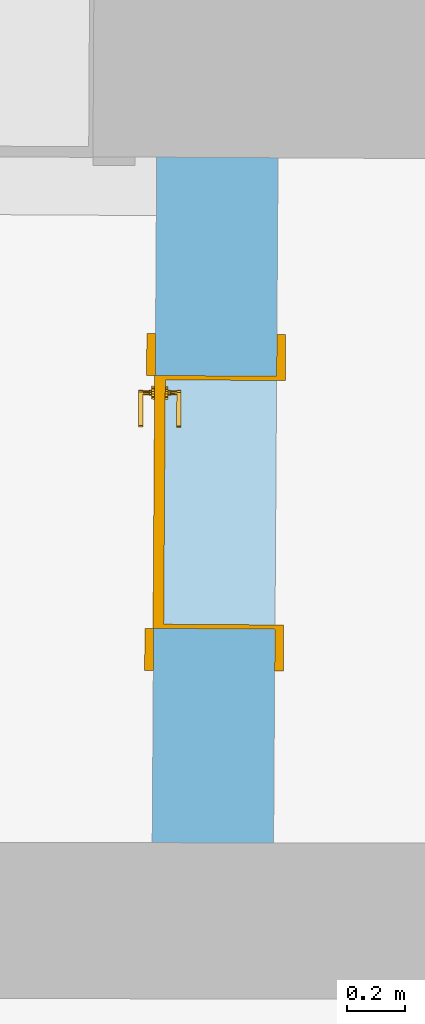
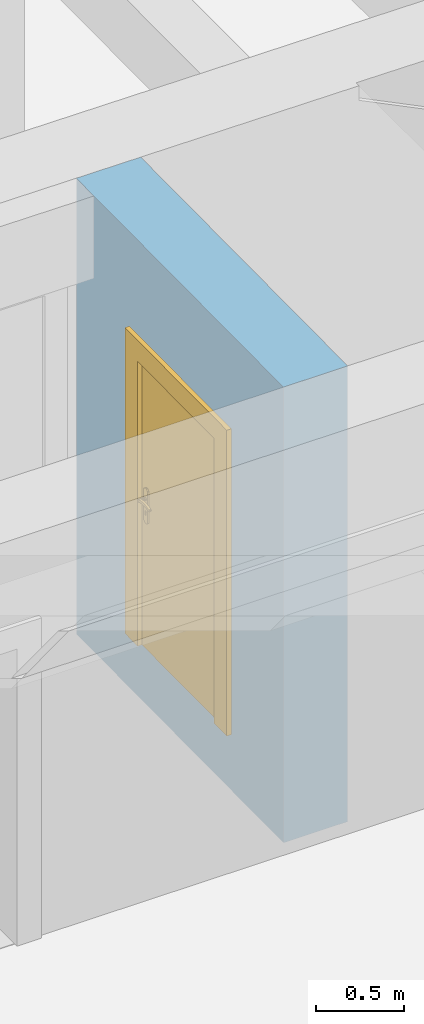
# One storey, part 105 of 196: 1 door, 1 opening, plus 1 element that does not belong to this part.
"""IFC2X3 building model written with IfcOpenShell, lengths in metres."""

from ifc_helpers import new_model, entity, si_unit, converted_unit, derived_unit, money_unit, direction, frame, origin_with_axes, origin_2d_with_axis, place, context, subcontext, project, spatial, polyline, rectangle, outline, extrude, open_shell, faceted_brep, surface_model, material, layer, layer_set, layer_usage, type_object, element, fill, save


model = new_model("IFC2X3")

# Units and contexts
model_context = context("Model", 3, precision=1e-05, world=origin_with_axes(), true_north=direction((0.0, 1.0)))
body_context = subcontext(model_context, "Body", "Model", "MODEL_VIEW")
ifc_project = project(units=[si_unit("LENGTHUNIT", "METRE"), si_unit("AREAUNIT", "SQUARE_METRE"), si_unit("VOLUMEUNIT", "CUBIC_METRE"), converted_unit("PLANEANGLEUNIT", "DEGREE", entity("IfcPlaneAngleMeasure", 0.0174532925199), si_unit("PLANEANGLEUNIT", "RADIAN"), dimensions=[0, 0, 0, 0, 0, 0, 0]), money_unit("EUR"), converted_unit("TIMEUNIT", "Year", entity("IfcTimeMeasure", 31556926.0), si_unit("TIMEUNIT", "SECOND"), dimensions=[0, 0, 1, 0, 0, 0, 0]), si_unit("MASSUNIT", "GRAM", prefix="KILO"), si_unit("THERMODYNAMICTEMPERATUREUNIT", "DEGREE_CELSIUS"), si_unit("LUMINOUSINTENSITYUNIT", "LUMEN"), si_unit("ENERGYUNIT", "JOULE", prefix="MEGA"), derived_unit("THERMALCONDUCTANCEUNIT", [(si_unit("POWERUNIT", "WATT"), 1), (si_unit("LENGTHUNIT", "METRE"), -1), (si_unit("THERMODYNAMICTEMPERATUREUNIT", "KELVIN"), -1)]), derived_unit("SPECIFICHEATCAPACITYUNIT", [(si_unit("ENERGYUNIT", "JOULE"), 1), (si_unit("MASSUNIT", "GRAM", prefix="KILO"), -1), (si_unit("THERMODYNAMICTEMPERATUREUNIT", "KELVIN"), -1)]), derived_unit("MASSDENSITYUNIT", [(si_unit("MASSUNIT", "GRAM", prefix="KILO"), 1), (si_unit("VOLUMEUNIT", "CUBIC_METRE"), -1)])], contexts=[model_context])

# Site, building, storey
site_placement = place(None, origin_with_axes())
site = spatial("IfcSite", under=ifc_project, at=site_placement, Name="Gelände", CompositionType="ELEMENT")
building_placement = place(site_placement, origin_with_axes())
building = spatial("IfcBuilding", under=site, at=building_placement, Name="Gebäude", CompositionType="ELEMENT")
storey_placement = place(building_placement, frame((0.0, 0.0, -3.0), z_axis=(0.0, 0.0, 1.0), x_axis=(1.0, 0.0, 0.0)))
storey = spatial("IfcBuildingStorey", under=building, at=storey_placement, Name="KELLERGESCHOSS", CompositionType="ELEMENT", Elevation=-3.0)

# Wall, opening, door
ifc_material = material(Name="05_ALLGEMEIN - TRAGENDE BAUTEILE")
ifc_layer = layer(ifc_material, 0.42, ventilated="UNKNOWN")
ifc_layer_set = layer_set([ifc_layer], Name="05_ALLGEMEIN - TRAGENDE BAUTEILE 0.42")
ifc_layer_usage = layer_usage(ifc_layer_set, "AXIS2", "NEGATIVE", 0.42)
wall_type = type_object("IfcWallType", Name="05_ALLGEMEIN - TRAGENDE BAUTEILE 420", PredefinedType="ELEMENTEDWALL")
wall_placement = place(storey_placement, frame((26.8509158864, 19.262134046, -0.36), z_axis=(0.0, 0.0, 1.0), x_axis=(-0.00654431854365, -0.999978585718, 0.0)))
wall = element("IfcWallStandardCase", 1, at=wall_placement, inside=storey, type_object=wall_type, material=ifc_layer_usage, Name="Wand-039", ObjectType="ELEMENTEDWALL", context=body_context, shape_type="SweptSolid", body=[
    extrude(outline(polyline([(0.0, 0.0), (2.37231980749, 0.0), (2.3700535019, 0.42), (-0.000498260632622, 0.42), (0.0, 0.0)])), origin_with_axes(), (0.0, 0.0, 1.0), 3.15),
])
opening_placement = place(wall_placement, frame((1.19311874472, 0.0, 0.385307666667), z_axis=(0.0, 0.0, 1.0), x_axis=(1.0, 0.0, 0.0)))
opening = element("IfcOpeningElement", 2, at=opening_placement, cuts=wall, Name="Tür-022", context=body_context, shape_type="SweptSolid", body=[
    extrude(rectangle(XDim=0.875595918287, YDim=1.968789, at=origin_2d_with_axis()), frame((0.0, -0.42, 0.9843945), z_axis=(0.0, -1.0, 0.0), x_axis=(1.0, 0.0, 0.0)), (0.0, 0.0, -1.0), 1.26),
])
door_style = type_object("IfcDoorStyle", Name="Blockrahmentür 1-Fl 25", ConstructionType="NOTDEFINED", OperationType="SINGLE_SWING_LEFT", ParameterTakesPrecedence=False, Sizeable=False)
door_placement = place(opening_placement, frame((0.422797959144, 0.0, 0.0), z_axis=(0.0, 0.0, 1.0), x_axis=(-1.0, 0.0, 0.0)))
door = element("IfcDoor", 3, at=door_placement, inside=storey, type_object=door_style, Name="Tür-022", ObjectType="NOTDEFINED", OverallHeight=1.96879, OverallWidth=0.875596, context=body_context, shape_type="SurfaceModel", body=[
    faceted_brep([(-0.015, -0.45, 0.0), (-0.015, -0.45, 1.968789), (-0.015, -0.035, 1.968789), (-0.015, -0.035, 0.0), (0.0, -0.45, 0.0), (0.0, -0.45, 1.953789), (0.307697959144, -0.45, 1.953789), (0.422697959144, -0.45, 1.953789), (0.845595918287, -0.45, 1.953789), (0.845595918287, -0.45, 0.0), (0.860595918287, -0.45, 0.0), (0.860595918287, -0.45, 1.968789), (0.860595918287, -0.035, 1.968789), (0.860595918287, -0.035, 0.0), (0.845595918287, -0.035, 0.0), (0.845595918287, -0.035, 1.953789), (0.422697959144, -0.035, 1.953789), (0.307697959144, -0.035, 1.953789), (0.0, -0.035, 1.953789), (0.0, -0.035, 0.0)], [[[0, 1, 2, 3]], [[0, 4, 5, 6, 7, 8, 9, 10, 11, 1]], [[1, 11, 12, 2]], [[3, 2, 12, 13, 14, 15, 16, 17, 18, 19]], [[4, 0, 3, 19]], [[5, 4, 19, 18]], [[6, 5, 18, 17]], [[7, 6, 17, 16]], [[8, 7, 16, 15]], [[9, 8, 15, 14]], [[10, 9, 14, 13]], [[11, 10, 13, 12]]]),
    surface_model("IfcShellBasedSurfaceModel", [(-0.015, -0.035, 0.0), (-0.015, -0.035, 1.968789), (-0.015, 0.03, 1.968789), (-0.015, 0.03, 0.0), (0.322697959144, -0.035, 1.968789), (0.407697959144, -0.035, 1.968789), (0.860595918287, -0.035, 1.968789), (0.860595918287, -0.035, 1.968789), (0.860595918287, 0.03, 1.968789), (0.407697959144, 0.03, 1.968789), (0.322697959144, 0.03, 1.968789), (-0.015, 0.03, 1.968789), (-0.015, -0.035, 1.968789), (0.860595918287, 0.03, 1.968789), (0.860595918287, -0.035, 0.0), (0.860595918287, 0.03, 0.0)], [open_shell([[[0, 1, 2, 3]], [[4, 5, 6, 1]], [[1, 7, 8, 2]], [[8, 9, 10, 11]], [[12, 0, 3, 11]], [[4, 12, 11, 10]], [[5, 4, 10, 9]], [[6, 5, 9, 13]], [[14, 6, 13, 15]], [[7, 14, 15, 8]]])]),
    faceted_brep([(-0.16, -0.45, 0.0), (-0.16, -0.45, 2.113789), (-0.16, -0.42, 2.113789), (-0.16, -0.42, 0.0), (-0.015, -0.45, 0.0), (-0.015, -0.45, 1.968789), (0.860595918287, -0.45, 1.968789), (0.860595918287, -0.45, 0.0), (1.00559591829, -0.45, 0.0), (1.00559591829, -0.45, 2.113789), (1.00559591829, -0.42, 2.113789), (1.00559591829, -0.42, 0.0), (0.860595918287, -0.42, 0.0), (0.860595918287, -0.42, 1.968789), (-0.015, -0.42, 1.968789), (-0.015, -0.42, 0.0)], [[[0, 1, 2, 3]], [[0, 4, 5, 6, 7, 8, 9, 1]], [[1, 9, 10, 2]], [[3, 2, 10, 11, 12, 13, 14, 15]], [[4, 0, 3, 15]], [[5, 4, 15, 14]], [[6, 5, 14, 13]], [[7, 6, 13, 12]], [[8, 7, 12, 11]], [[9, 8, 11, 10]]]),
    faceted_brep([(-0.16, 0.0, 0.0), (-0.16, 0.0, 2.113789), (-0.16, 0.03, 2.113789), (-0.16, 0.03, 0.0), (-0.015, 0.0, 0.0), (-0.015, 0.0, 1.968789), (0.860595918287, 0.0, 1.968789), (0.860595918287, 0.0, 0.0), (1.00559591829, 0.0, 0.0), (1.00559591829, 0.0, 2.113789), (1.00559591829, 0.03, 2.113789), (1.00559591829, 0.03, 0.0), (0.860595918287, 0.03, 0.0), (0.860595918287, 0.03, 1.968789), (-0.015, 0.03, 1.968789), (-0.015, 0.03, 0.0)], [[[0, 1, 2, 3]], [[0, 4, 5, 6, 7, 8, 9, 1]], [[1, 9, 10, 2]], [[3, 2, 10, 11, 12, 13, 14, 15]], [[4, 0, 3, 15]], [[5, 4, 15, 14]], [[6, 5, 14, 13]], [[7, 6, 13, 12]], [[8, 7, 12, 11]], [[9, 8, 11, 10]]]),
    faceted_brep([(-0.015, 0.002, 0.0), (-0.015, 0.002, 1.968789), (0.860595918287, 0.002, 1.968789), (0.860595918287, 0.002, 0.0), (-0.015, -0.035, 0.0), (-0.015, -0.035, 1.968789), (0.860595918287, -0.035, 1.968789), (0.860595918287, -0.035, 0.0)], [[[0, 1, 2, 3]], [[0, 4, 5, 1]], [[1, 5, 6, 2]], [[2, 6, 7, 3]], [[3, 7, 4, 0]], [[7, 6, 5, 4]]]),
    faceted_brep([(0.805298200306, -0.075, 1.05647213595), (0.805298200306, -0.055, 1.05647213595), (0.800595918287, -0.055, 1.058), (0.800595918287, -0.075, 1.058), (0.808204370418, -0.075, 1.05247213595), (0.808204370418, -0.055, 1.05247213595), (0.80647377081, -0.053, 1.05809016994), (0.800595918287, -0.053, 1.06), (0.795893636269, -0.055, 1.05647213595), (0.795893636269, -0.075, 1.05647213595), (0.792987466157, -0.075, 1.05247213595), (0.792987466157, -0.075, 1.04752786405), (0.795893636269, -0.075, 1.04352786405), (0.800595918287, -0.075, 1.042), (0.805298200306, -0.075, 1.04352786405), (0.808204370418, -0.075, 1.04752786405), (0.808204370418, -0.055, 1.04752786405), (0.81010648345, -0.053, 1.05309016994), (0.80647377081, -0.045, 1.05809016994), (0.800595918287, -0.045, 1.06), (0.794718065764, -0.053, 1.05809016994), (0.792987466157, -0.055, 1.05247213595), (0.792987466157, -0.055, 1.04752786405), (0.795893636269, -0.055, 1.04352786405), (0.800595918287, -0.055, 1.042), (0.805298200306, -0.055, 1.04352786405), (0.81010648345, -0.053, 1.04690983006), (0.81010648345, -0.045, 1.05309016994), (0.81010648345, -0.045, 1.04690983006), (0.80647377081, -0.045, 1.04190983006), (0.800595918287, -0.045, 1.04), (0.794718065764, -0.045, 1.04190983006), (0.791085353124, -0.045, 1.04690983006), (0.791085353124, -0.045, 1.05309016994), (0.794718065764, -0.045, 1.05809016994), (0.791085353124, -0.053, 1.05309016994), (0.791085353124, -0.053, 1.04690983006), (0.794718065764, -0.053, 1.04190983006), (0.800595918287, -0.053, 1.04), (0.80647377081, -0.053, 1.04190983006)], [[[0, 1, 2, 3]], [[4, 5, 1, 0]], [[1, 6, 7, 2]], [[3, 2, 8, 9]], [[3, 9, 10, 11, 12, 13, 14, 15, 4, 0]], [[15, 16, 5, 4]], [[5, 17, 6, 1]], [[6, 18, 19, 7]], [[2, 7, 20, 8]], [[9, 8, 21, 10]], [[10, 21, 22, 11]], [[11, 22, 23, 12]], [[12, 23, 24, 13]], [[13, 24, 25, 14]], [[14, 25, 16, 15]], [[16, 26, 17, 5]], [[17, 27, 18, 6]], [[19, 18, 27, 28, 29, 30, 31, 32, 33, 34]], [[7, 19, 34, 20]], [[8, 20, 35, 21]], [[21, 35, 36, 22]], [[22, 36, 37, 23]], [[23, 37, 38, 24]], [[24, 38, 39, 25]], [[25, 39, 26, 16]], [[26, 28, 27, 17]], [[39, 29, 28, 26]], [[38, 30, 29, 39]], [[37, 31, 30, 38]], [[36, 32, 31, 37]], [[35, 33, 32, 36]], [[20, 34, 33, 35]]]),
    faceted_brep([(0.788407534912, -0.045, 1.11759695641), (0.783795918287, -0.045, 1.11), (0.778095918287, -0.045, 1.11), (0.778095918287, -0.045, 0.89), (0.783795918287, -0.045, 0.89), (0.788407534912, -0.045, 0.882403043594), (0.796152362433, -0.045, 0.878044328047), (0.805039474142, -0.045, 0.878044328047), (0.812784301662, -0.045, 0.882403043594), (0.817395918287, -0.045, 0.89), (0.823095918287, -0.045, 0.89), (0.823095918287, -0.045, 1.11), (0.817395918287, -0.045, 1.11), (0.812784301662, -0.045, 1.11759695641), (0.805039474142, -0.045, 1.12195567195), (0.796152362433, -0.045, 1.12195567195), (0.800595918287, -0.045, 0.967425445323), (0.805971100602, -0.045, 0.965143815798), (0.808063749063, -0.045, 0.959692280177), (0.805595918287, -0.045, 0.9544), (0.805595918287, -0.045, 0.9375), (0.804131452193, -0.045, 0.933964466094), (0.800595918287, -0.045, 0.9325), (0.797060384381, -0.045, 0.933964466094), (0.795595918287, -0.045, 0.9375), (0.795595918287, -0.045, 0.9544), (0.793128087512, -0.045, 0.959692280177), (0.795220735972, -0.045, 0.965143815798), (0.788407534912, -0.035, 1.11759695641), (0.783795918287, -0.035, 1.11), (0.778095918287, -0.035, 1.11), (0.778095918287, -0.035, 0.89), (0.783795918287, -0.035, 0.89), (0.788407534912, -0.035, 0.882403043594), (0.796152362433, -0.035, 0.878044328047), (0.805039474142, -0.035, 0.878044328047), (0.812784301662, -0.035, 0.882403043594), (0.817395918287, -0.035, 0.89), (0.823095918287, -0.035, 0.89), (0.823095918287, -0.035, 1.11), (0.817395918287, -0.035, 1.11), (0.812784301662, -0.035, 1.11759695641), (0.805039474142, -0.035, 1.12195567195), (0.796152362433, -0.035, 1.12195567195), (0.800595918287, -0.035, 0.967425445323), (0.805971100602, -0.035, 0.965143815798), (0.808063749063, -0.035, 0.959692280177), (0.805595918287, -0.035, 0.9544), (0.805595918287, -0.035, 0.9375), (0.804131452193, -0.035, 0.933964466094), (0.800595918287, -0.035, 0.9325), (0.797060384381, -0.035, 0.933964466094), (0.795595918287, -0.035, 0.9375), (0.795595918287, -0.035, 0.9544), (0.793128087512, -0.035, 0.959692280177), (0.795220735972, -0.035, 0.965143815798)], [[[0, 1, 2, 3, 4, 5, 6, 7, 8, 9, 10, 11, 12, 13, 14, 15], [16, 17, 18, 19, 20, 21, 22, 23, 24, 25, 26, 27]], [[0, 28, 29, 1]], [[1, 29, 30, 2]], [[2, 30, 31, 3]], [[3, 31, 32, 4]], [[4, 32, 33, 5]], [[5, 33, 34, 6]], [[6, 34, 35, 7]], [[7, 35, 36, 8]], [[8, 36, 37, 9]], [[9, 37, 38, 10]], [[10, 38, 39, 11]], [[11, 39, 40, 12]], [[12, 40, 41, 13]], [[13, 41, 42, 14]], [[14, 42, 43, 15]], [[15, 43, 28, 0]], [[16, 44, 45, 17]], [[17, 45, 46, 18]], [[18, 46, 47, 19]], [[47, 48, 20, 19]], [[21, 20, 48, 49]], [[22, 21, 49, 50]], [[23, 22, 50, 51]], [[24, 23, 51, 52]], [[25, 24, 52, 53]], [[25, 53, 54, 26]], [[26, 54, 55, 27]], [[27, 55, 44, 16]], [[32, 31, 30, 29, 28, 43, 42, 41, 40, 39, 38, 37, 36, 35, 34, 33], [46, 45, 44, 55, 54, 53, 52, 51, 50, 49, 48, 47]]]),
    faceted_brep([(0.686342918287, -0.075, 1.057158), (0.68634142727, -0.075, 1.05719388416), (0.68634142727, -0.09, 1.05719388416), (0.686342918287, -0.09, 1.057158), (0.713370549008, -0.075, 1.06432652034), (0.741198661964, -0.075, 1.06706086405), (0.769104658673, -0.075, 1.06529002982), (0.796363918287, -0.075, 1.05906), (0.8027664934, -0.075, 1.05976125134), (0.808268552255, -0.075, 1.05641280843), (0.810587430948, -0.075, 1.05040385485), (0.808761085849, -0.075, 1.04422735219), (0.803547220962, -0.075, 1.04044577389), (0.797108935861, -0.075, 1.04062800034), (0.792117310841, -0.075, 1.04469843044), (0.792137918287, -0.075, 1.044666), (0.766849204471, -0.075, 1.05019878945), (0.741006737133, -0.075, 1.05171460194), (0.71524460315, -0.075, 1.04917624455), (0.690194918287, -0.075, 1.042646), (0.684651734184, -0.075, 1.04356849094), (0.681290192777, -0.075, 1.04807159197), (0.681981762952, -0.075, 1.05364829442), (0.681981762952, -0.09, 1.05364829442), (0.681290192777, -0.09, 1.04807159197), (0.684651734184, -0.09, 1.04356849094), (0.690194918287, -0.09, 1.042646), (0.71524460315, -0.09, 1.04917624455), (0.741006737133, -0.09, 1.05171460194), (0.766849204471, -0.09, 1.05019878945), (0.792137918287, -0.09, 1.044666), (0.792117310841, -0.09, 1.04469843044), (0.797108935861, -0.09, 1.04062800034), (0.803547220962, -0.09, 1.04044577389), (0.808761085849, -0.09, 1.04422735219), (0.810587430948, -0.09, 1.05040385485), (0.808268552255, -0.09, 1.05641280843), (0.8027664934, -0.09, 1.05976125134), (0.796363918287, -0.09, 1.05906), (0.769104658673, -0.09, 1.06529002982), (0.741198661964, -0.09, 1.06706086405), (0.713370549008, -0.09, 1.06432652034)], [[[0, 1, 2, 3]], [[0, 4, 5, 6, 7, 8, 9, 10, 11, 12, 13, 14, 15, 16, 17, 18, 19, 20, 21, 22, 1]], [[1, 22, 23, 2]], [[3, 2, 23, 24, 25, 26, 27, 28, 29, 30, 31, 32, 33, 34, 35, 36, 37, 38, 39, 40, 41]], [[4, 0, 3, 41]], [[5, 4, 41, 40]], [[6, 5, 40, 39]], [[7, 6, 39, 38]], [[8, 7, 38, 37]], [[9, 8, 37, 36]], [[10, 9, 36, 35]], [[11, 10, 35, 34]], [[12, 11, 34, 33]], [[13, 12, 33, 32]], [[14, 13, 32, 31]], [[15, 14, 31, 30]], [[16, 15, 30, 29]], [[17, 16, 29, 28]], [[18, 17, 28, 27]], [[19, 18, 27, 26]], [[20, 19, 26, 25]], [[21, 20, 25, 24]], [[22, 21, 24, 23]]]),
    faceted_brep([(0.805298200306, 0.042, 1.05647213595), (0.800595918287, 0.042, 1.058), (0.800595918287, 0.022, 1.058), (0.805298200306, 0.022, 1.05647213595), (0.808204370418, 0.042, 1.05247213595), (0.808204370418, 0.042, 1.04752786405), (0.805298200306, 0.042, 1.04352786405), (0.800595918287, 0.042, 1.042), (0.795893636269, 0.042, 1.04352786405), (0.792987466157, 0.042, 1.04752786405), (0.792987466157, 0.042, 1.05247213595), (0.795893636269, 0.042, 1.05647213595), (0.795893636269, 0.022, 1.05647213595), (0.800595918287, 0.02, 1.06), (0.80647377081, 0.02, 1.05809016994), (0.808204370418, 0.022, 1.05247213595), (0.808204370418, 0.022, 1.04752786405), (0.805298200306, 0.022, 1.04352786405), (0.800595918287, 0.022, 1.042), (0.795893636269, 0.022, 1.04352786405), (0.792987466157, 0.022, 1.04752786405), (0.792987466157, 0.022, 1.05247213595), (0.794718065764, 0.02, 1.05809016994), (0.800595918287, 0.012, 1.06), (0.80647377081, 0.012, 1.05809016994), (0.81010648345, 0.02, 1.05309016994), (0.81010648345, 0.02, 1.04690983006), (0.80647377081, 0.02, 1.04190983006), (0.800595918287, 0.02, 1.04), (0.794718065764, 0.02, 1.04190983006), (0.791085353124, 0.02, 1.04690983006), (0.791085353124, 0.02, 1.05309016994), (0.794718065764, 0.012, 1.05809016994), (0.791085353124, 0.012, 1.05309016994), (0.791085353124, 0.012, 1.04690983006), (0.794718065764, 0.012, 1.04190983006), (0.800595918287, 0.012, 1.04), (0.80647377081, 0.012, 1.04190983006), (0.81010648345, 0.012, 1.04690983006), (0.81010648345, 0.012, 1.05309016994)], [[[0, 1, 2, 3]], [[1, 0, 4, 5, 6, 7, 8, 9, 10, 11]], [[1, 11, 12, 2]], [[3, 2, 13, 14]], [[4, 0, 3, 15]], [[5, 4, 15, 16]], [[6, 5, 16, 17]], [[7, 6, 17, 18]], [[8, 7, 18, 19]], [[9, 8, 19, 20]], [[10, 9, 20, 21]], [[11, 10, 21, 12]], [[2, 12, 22, 13]], [[14, 13, 23, 24]], [[15, 3, 14, 25]], [[16, 15, 25, 26]], [[17, 16, 26, 27]], [[18, 17, 27, 28]], [[19, 18, 28, 29]], [[20, 19, 29, 30]], [[21, 20, 30, 31]], [[12, 21, 31, 22]], [[13, 22, 32, 23]], [[23, 32, 33, 34, 35, 36, 37, 38, 39, 24]], [[25, 14, 24, 39]], [[26, 25, 39, 38]], [[27, 26, 38, 37]], [[28, 27, 37, 36]], [[29, 28, 36, 35]], [[30, 29, 35, 34]], [[31, 30, 34, 33]], [[22, 31, 33, 32]]]),
    faceted_brep([(0.788407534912, 0.002, 1.11759695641), (0.783795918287, 0.002, 1.11), (0.778095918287, 0.002, 1.11), (0.778095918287, 0.002, 0.89), (0.783795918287, 0.002, 0.89), (0.788407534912, 0.002, 0.882403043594), (0.796152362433, 0.002, 0.878044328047), (0.805039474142, 0.002, 0.878044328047), (0.812784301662, 0.002, 0.882403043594), (0.817395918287, 0.002, 0.89), (0.823095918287, 0.002, 0.89), (0.823095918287, 0.002, 1.11), (0.817395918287, 0.002, 1.11), (0.812784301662, 0.002, 1.11759695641), (0.805039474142, 0.002, 1.12195567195), (0.796152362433, 0.002, 1.12195567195), (0.800595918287, 0.002, 0.967425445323), (0.805971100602, 0.002, 0.965143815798), (0.808063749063, 0.002, 0.959692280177), (0.805595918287, 0.002, 0.9544), (0.805595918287, 0.002, 0.9375), (0.804131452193, 0.002, 0.933964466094), (0.800595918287, 0.002, 0.9325), (0.797060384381, 0.002, 0.933964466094), (0.795595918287, 0.002, 0.9375), (0.795595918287, 0.002, 0.9544), (0.793128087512, 0.002, 0.959692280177), (0.795220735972, 0.002, 0.965143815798), (0.788407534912, 0.012, 1.11759695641), (0.783795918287, 0.012, 1.11), (0.778095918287, 0.012, 1.11), (0.778095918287, 0.012, 0.89), (0.783795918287, 0.012, 0.89), (0.788407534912, 0.012, 0.882403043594), (0.796152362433, 0.012, 0.878044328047), (0.805039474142, 0.012, 0.878044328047), (0.812784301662, 0.012, 0.882403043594), (0.817395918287, 0.012, 0.89), (0.823095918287, 0.012, 0.89), (0.823095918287, 0.012, 1.11), (0.817395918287, 0.012, 1.11), (0.812784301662, 0.012, 1.11759695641), (0.805039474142, 0.012, 1.12195567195), (0.796152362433, 0.012, 1.12195567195), (0.800595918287, 0.012, 0.967425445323), (0.805971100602, 0.012, 0.965143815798), (0.808063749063, 0.012, 0.959692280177), (0.805595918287, 0.012, 0.9544), (0.805595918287, 0.012, 0.9375), (0.804131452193, 0.012, 0.933964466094), (0.800595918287, 0.012, 0.9325), (0.797060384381, 0.012, 0.933964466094), (0.795595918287, 0.012, 0.9375), (0.795595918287, 0.012, 0.9544), (0.793128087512, 0.012, 0.959692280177), (0.795220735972, 0.012, 0.965143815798)], [[[0, 1, 2, 3, 4, 5, 6, 7, 8, 9, 10, 11, 12, 13, 14, 15], [16, 17, 18, 19, 20, 21, 22, 23, 24, 25, 26, 27]], [[28, 29, 1, 0]], [[29, 30, 2, 1]], [[30, 31, 3, 2]], [[31, 32, 4, 3]], [[32, 33, 5, 4]], [[33, 34, 6, 5]], [[34, 35, 7, 6]], [[35, 36, 8, 7]], [[36, 37, 9, 8]], [[37, 38, 10, 9]], [[38, 39, 11, 10]], [[39, 40, 12, 11]], [[40, 41, 13, 12]], [[41, 42, 14, 13]], [[42, 43, 15, 14]], [[43, 28, 0, 15]], [[16, 44, 45, 17]], [[17, 45, 46, 18]], [[18, 46, 47, 19]], [[47, 48, 20, 19]], [[21, 20, 48, 49]], [[22, 21, 49, 50]], [[23, 22, 50, 51]], [[24, 23, 51, 52]], [[25, 24, 52, 53]], [[25, 53, 54, 26]], [[26, 54, 55, 27]], [[27, 55, 44, 16]], [[32, 31, 30, 29, 28, 43, 42, 41, 40, 39, 38, 37, 36, 35, 34, 33], [46, 45, 44, 55, 54, 53, 52, 51, 50, 49, 48, 47]]]),
    faceted_brep([(0.686342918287, 0.042, 1.057158), (0.686342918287, 0.057, 1.057158), (0.68634142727, 0.057, 1.05719388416), (0.68634142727, 0.042, 1.05719388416), (0.713370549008, 0.042, 1.06432652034), (0.713370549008, 0.057, 1.06432652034), (0.741198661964, 0.057, 1.06706086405), (0.769104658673, 0.057, 1.06529002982), (0.796363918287, 0.057, 1.05906), (0.8027664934, 0.057, 1.05976125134), (0.808268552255, 0.057, 1.05641280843), (0.810587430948, 0.057, 1.05040385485), (0.808761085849, 0.057, 1.04422735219), (0.803547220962, 0.057, 1.04044577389), (0.797108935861, 0.057, 1.04062800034), (0.792117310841, 0.057, 1.04469843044), (0.792137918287, 0.057, 1.044666), (0.766849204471, 0.057, 1.05019878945), (0.741006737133, 0.057, 1.05171460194), (0.71524460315, 0.057, 1.04917624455), (0.690194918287, 0.057, 1.042646), (0.684651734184, 0.057, 1.04356849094), (0.681290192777, 0.057, 1.04807159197), (0.681981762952, 0.057, 1.05364829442), (0.681981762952, 0.042, 1.05364829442), (0.681290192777, 0.042, 1.04807159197), (0.684651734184, 0.042, 1.04356849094), (0.690194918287, 0.042, 1.042646), (0.71524460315, 0.042, 1.04917624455), (0.741006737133, 0.042, 1.05171460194), (0.766849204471, 0.042, 1.05019878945), (0.792137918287, 0.042, 1.044666), (0.792117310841, 0.042, 1.04469843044), (0.797108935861, 0.042, 1.04062800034), (0.803547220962, 0.042, 1.04044577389), (0.808761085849, 0.042, 1.04422735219), (0.810587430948, 0.042, 1.05040385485), (0.808268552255, 0.042, 1.05641280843), (0.8027664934, 0.042, 1.05976125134), (0.796363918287, 0.042, 1.05906), (0.769104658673, 0.042, 1.06529002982), (0.741198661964, 0.042, 1.06706086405)], [[[0, 1, 2, 3]], [[4, 5, 1, 0]], [[1, 5, 6, 7, 8, 9, 10, 11, 12, 13, 14, 15, 16, 17, 18, 19, 20, 21, 22, 23, 2]], [[3, 2, 23, 24]], [[0, 3, 24, 25, 26, 27, 28, 29, 30, 31, 32, 33, 34, 35, 36, 37, 38, 39, 40, 41, 4]], [[41, 6, 5, 4]], [[40, 7, 6, 41]], [[39, 8, 7, 40]], [[38, 9, 8, 39]], [[37, 10, 9, 38]], [[36, 11, 10, 37]], [[35, 12, 11, 36]], [[34, 13, 12, 35]], [[33, 14, 13, 34]], [[32, 15, 14, 33]], [[31, 16, 15, 32]], [[30, 17, 16, 31]], [[29, 18, 17, 30]], [[28, 19, 18, 29]], [[27, 20, 19, 28]], [[26, 21, 20, 27]], [[25, 22, 21, 26]], [[24, 23, 22, 25]]]),
])
fill(opening, door)

save(model, "model.ifc")
